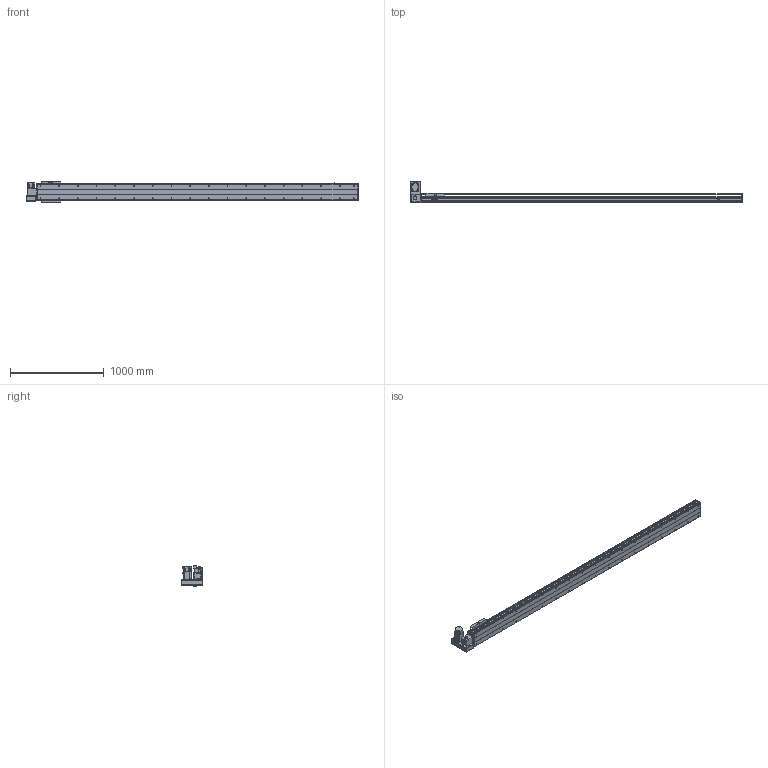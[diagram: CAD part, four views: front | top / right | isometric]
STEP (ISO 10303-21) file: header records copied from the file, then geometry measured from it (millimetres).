
FILE_DESCRIPTION(/* description */ ('STEP AP214'),/* implementation_level */ '2;1');
FILE_NAME(/* name */ 'PBS200-P40-S3050-LU-T75-C1-N(0)',/* time_stamp */ '2022-06-11T09:06:46+02:00',/* author */ ('License CC BY-ND 4.0'),/* organization */ ('CADENAS'),/* preprocessor_version */ 'ST-DEVELOPER v18.102',/* originating_system */ 'PARTsolutions',/* authorisation */ ' ');
FILE_SCHEMA (('AUTOMOTIVE_DESIGN {1 0 10303 214 3 1 1}'));
Length unit declared in the file: millimetre
Products named in the file (7): PBS200-P40-S3050-LU-T75-C1-N(0); PBS200_sensor; PBS200_plant; PBS200_sliser; T75-p1; PBS200T-LU_motors; PBS200-S3050()_body
Assembly tree (8 placements, depth 2):
  PBS200-P40-S3050-LU-T75-C1-N(0)
    PBS200_sensor  x3
    PBS200_plant
    PBS200_sliser
    T75-p1
    PBS200T-LU_motors
    PBS200-S3050()_body
Bounding box: 3550 x 231 x 221 mm (x, y, z)
Volume: 24038485.8 mm3; surface area: 3837766.1 mm2
Topology: 8 solids, 8 shells, 980 faces, 2474 edges, 1608 vertices
Faces by surface type: plane 594, cylinder 318, cone 68
Full cylindrical faces by diameter (mm): 2.459 x6, 3.242 x4, 4.5 x6, 4.917 x4, 5 x6, 6 x7, 6.6 x8, 6.647 x40, 8 x6, 10 x4, 12 x8, 38 x2, 40 x1, 70 x1
Entity records: 25781 total; most frequent: DIRECTION 4567, CARTESIAN_POINT 4372, ORIENTED_EDGE 4102, EDGE_CURVE 2051, AXIS2_PLACEMENT_3D 1627, VERTEX_POINT 1432, LINE 1313, VECTOR 1313
